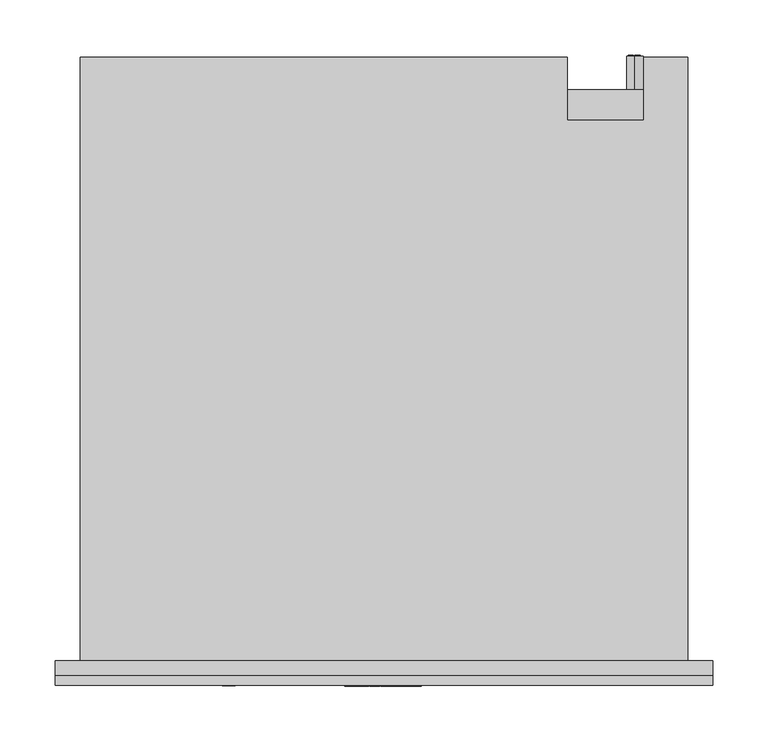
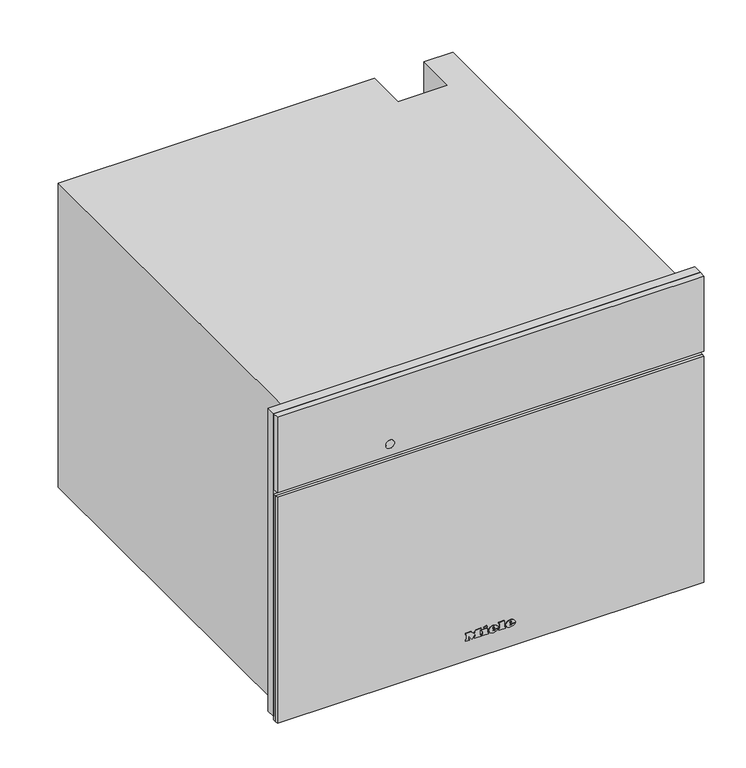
"""IFC4 building model written with IfcOpenShell, lengths in millimetres: proxy geometry, 12598910_CH_DGC7440HCXPro_PEBE : 23744098_CH_12598910_DGC7440HCXPro_PEBE."""

from ifc_helpers import new_model, si_unit, point, frame, frame_2d, origin, place, context, project, spatial, polyline, circle_curve, ellipse_curve, trimmed, segment, composite_curve, outline, extrude, faceted_brep, source, transform, mapped, element, save
from ifc_brep_helpers import plane_surface, cylinder_surface, revolved_surface, extruded_surface, advanced_brep


def specialty_equipment_88979899(model_context):
    return source(origin(), model_context, "Body", "SolidModel", [
        extrude(outline(polyline([(455.0, 297.5), (455.0, -297.5), (9.0, -297.5), (9.0, 297.5), (455.0, 297.5)]), holes=[polyline([(344.0, -272.5), (344.0, 272.5), (27.0, 272.5), (27.0, -272.5), (344.0, -272.5)])]), frame((0.0, -13.0, 0.0), z_axis=(0.0, 1.0, 0.0), x_axis=(0.0, 0.0, 1.0)), (0.0, 0.0, 1.0), 13.0),
        advanced_brep(
        [(227.0, 547.0, 255.5), (227.0, 547.0, 240.5), (221.4098301, 547.0, 243.0), (225.5, 547.0, 243.0), (225.5, 547.0, 253.0), (224.4955303, 547.0, 253.0), (224.4955303, 547.0, 244.0), (221.0315043, 547.0, 244.0), (221.0315043, 547.0, 243.4582978), (232.0, 547.0, 243.0), (232.0, 547.0, 253.0), (227.0, 547.0, 253.0), (227.0, 547.0, 252.0), (231.0, 547.0, 252.0), (231.0, 547.0, 248.5), (228.0, 547.0, 248.5), (228.0, 547.0, 247.5), (231.0, 547.0, 247.5), (231.0, 547.0, 244.0), (227.0, 547.0, 244.0), (227.0, 547.0, 243.0), (227.0, 517.0, 240.5), (227.0, 517.0, 255.5), (232.0, 548.0, 253.0), (232.0, 548.0, 243.0), (227.0, 548.0, 243.0), (227.0, 548.0, 244.0), (231.0, 548.0, 244.0), (231.0, 548.0, 247.5), (228.0, 548.0, 247.5), (228.0, 548.0, 248.5), (231.0, 548.0, 248.5), (231.0, 548.0, 252.0), (227.0, 548.0, 252.0), (227.0, 548.0, 253.0), (225.5, 548.0, 243.0), (221.0315043, 548.0, 243.0), (221.0315043, 548.0, 244.0), (224.4955303, 548.0, 244.0), (224.4955303, 548.0, 253.0), (225.5, 548.0, 253.0), (221.0315043, 547.0, 243.0)],
        [
            (0, 1, circle_curve(frame((227.0, 547.0, 248.0), z_axis=(0.0, 1.0, 0.0), x_axis=(0.0, 0.0, 1.0)), 7.5)),
            (1, 2, circle_curve(frame((227.0, 547.0, 248.0), z_axis=(0.0, 1.0, 0.0), x_axis=(0.0, 0.0, 1.0)), 7.5)),
            (2, 3),
            (3, 4),
            (4, 5),
            (5, 6),
            (6, 7),
            (7, 8),
            (8, 0, circle_curve(frame((227.0, 547.0, 248.0), z_axis=(0.0, 1.0, 0.0), x_axis=(0.0, 0.0, 1.0)), 7.5)),
            (9, 10),
            (10, 11),
            (11, 12),
            (12, 13),
            (13, 14),
            (14, 15),
            (15, 16),
            (16, 17),
            (17, 18),
            (18, 19),
            (19, 20),
            (20, 9),
            (21, 22, circle_curve(frame((227.0, 517.0, 248.0), z_axis=(0.0, -1.0, 0.0), x_axis=(0.0, 0.0, 1.0)), 7.5)),
            (22, 21, circle_curve(frame((227.0, 517.0, 248.0), z_axis=(0.0, -1.0, 0.0), x_axis=(0.0, 0.0, 1.0)), 7.5)),
            (0, 22),
            (21, 1),
            (8, 2, circle_curve(frame((227.0, 547.0, 248.0), z_axis=(0.0, -1.0, 0.0), x_axis=(0.0, 0.0, 1.0)), 7.5)),
            (23, 24),
            (24, 25),
            (25, 26),
            (26, 27),
            (27, 28),
            (28, 29),
            (29, 30),
            (30, 31),
            (31, 32),
            (32, 33),
            (33, 34),
            (34, 23),
            (35, 36),
            (36, 37),
            (37, 38),
            (38, 39),
            (39, 40),
            (40, 35),
            (8, 41),
            (41, 2),
            (23, 10),
            (9, 24),
            (20, 25),
            (19, 26),
            (18, 27),
            (17, 28),
            (16, 29),
            (15, 30),
            (14, 31),
            (13, 32),
            (12, 33),
            (11, 34),
            (35, 3),
            (41, 36),
            (7, 37),
            (6, 38),
            (5, 39),
            (4, 40),
        ],
        [
            plane_surface(frame((227.0, 547.0, 255.5), z_axis=(0.0, 1.0, 0.0), x_axis=(1.0, 0.0, 0.0))),
            plane_surface(frame((227.0, 517.0, 255.5), z_axis=(0.0, -1.0, 0.0), x_axis=(-1.0, 0.0, 0.0))),
            cylinder_surface(frame((227.0, 547.0, 248.0), z_axis=(0.0, -1.0, 0.0), x_axis=(0.0, 0.0, 1.0)), 7.5),
            plane_surface(frame((232.0, 548.0, 253.0), z_axis=(0.0, 1.0, 0.0), x_axis=(0.0, 0.0, -1.0))),
            plane_surface(frame((232.0, 547.0, 253.0), z_axis=(0.0, -1.0, 0.0), x_axis=(0.0, 0.0, 1.0))),
            plane_surface(frame((232.0, 548.0, 253.0), z_axis=(1.0, 0.0, 0.0), x_axis=(0.0, -1.0, 0.0))),
            plane_surface(frame((232.0, 548.0, 243.0), z_axis=(0.0, 0.0, -1.0), x_axis=(0.0, -1.0, 0.0))),
            plane_surface(frame((227.0, 548.0, 243.0), z_axis=(-1.0, 0.0, 0.0), x_axis=(0.0, -1.0, 0.0))),
            plane_surface(frame((227.0, 548.0, 244.0), z_axis=(0.0, 0.0, 1.0), x_axis=(0.0, -1.0, 0.0))),
            plane_surface(frame((231.0, 548.0, 244.0), z_axis=(-1.0, 0.0, 0.0), x_axis=(0.0, -1.0, 0.0))),
            plane_surface(frame((231.0, 548.0, 247.5), z_axis=(0.0, 0.0, -1.0), x_axis=(0.0, -1.0, 0.0))),
            plane_surface(frame((228.0, 548.0, 247.5), z_axis=(-1.0, 0.0, 0.0), x_axis=(0.0, -1.0, 0.0))),
            plane_surface(frame((228.0, 548.0, 248.5), z_axis=(0.0, 0.0, 1.0), x_axis=(0.0, -1.0, 0.0))),
            plane_surface(frame((231.0, 548.0, 248.5), z_axis=(-1.0, 0.0, 0.0), x_axis=(0.0, -1.0, 0.0))),
            plane_surface(frame((231.0, 548.0, 252.0), z_axis=(0.0, 0.0, -1.0), x_axis=(0.0, -1.0, 0.0))),
            plane_surface(frame((227.0, 548.0, 252.0), z_axis=(-1.0, 0.0, 0.0), x_axis=(0.0, -1.0, 0.0))),
            plane_surface(frame((227.0, 548.0, 253.0), z_axis=(0.0, 0.0, 1.0), x_axis=(0.0, -1.0, 0.0))),
            plane_surface(frame((225.5, 548.0, 243.0), z_axis=(0.0, 0.0, -1.0), x_axis=(0.0, -1.0, 0.0))),
            plane_surface(frame((221.0315043, 548.0, 243.0), z_axis=(-1.0, 0.0, 0.0), x_axis=(0.0, -1.0, 0.0))),
            plane_surface(frame((221.0315043, 548.0, 244.0), z_axis=(0.0, 0.0, 1.0), x_axis=(0.0, -1.0, 0.0))),
            plane_surface(frame((224.4955303, 548.0, 244.0), z_axis=(-1.0, 0.0, 0.0), x_axis=(0.0, -1.0, 0.0))),
            plane_surface(frame((224.4955303, 548.0, 253.0), z_axis=(0.0, 0.0, 1.0), x_axis=(0.0, -1.0, 0.0))),
            plane_surface(frame((225.5, 548.0, 253.0), z_axis=(1.0, 0.0, 0.0), x_axis=(0.0, -1.0, 0.0))),
        ],
        [
            (0, [[1, 2, 3, 4, 5, 6, 7, 8, 9], [10, 11, 12, 13, 14, 15, 16, 17, 18, 19, 20, 21]]),
            (1, [[22, 23]]),
            (2, [[-1, 24, -22, 25]]),
            (2, [[-23, -24, -9, 26, -2, -25]]),
            (3, [[27, 28, 29, 30, 31, 32, 33, 34, 35, 36, 37, 38]]),
            (3, [[39, 40, 41, 42, 43, 44]]),
            (4, [[45, 46, -26]]),
            (5, [[-27, 47, -10, 48]]),
            (6, [[-28, -48, -21, 49]]),
            (7, [[-29, -49, -20, 50]]),
            (8, [[-30, -50, -19, 51]]),
            (9, [[-31, -51, -18, 52]]),
            (10, [[-32, -52, -17, 53]]),
            (11, [[-33, -53, -16, 54]]),
            (12, [[-34, -54, -15, 55]]),
            (13, [[-35, -55, -14, 56]]),
            (14, [[-36, -56, -13, 57]]),
            (15, [[-37, -57, -12, 58]]),
            (16, [[-38, -58, -11, -47]]),
            (17, [[-39, 59, -3, -46, 60]]),
            (18, [[-40, -60, -45, -8, 61]]),
            (19, [[-41, -61, -7, 62]]),
            (20, [[-42, -62, -6, 63]]),
            (21, [[-43, -63, -5, 64]]),
            (22, [[-44, -64, -4, -59]]),
        ],
    ),
        faceted_brep([(-275.0, 546.0, 0.0), (-275.0, 546.0, 448.0), (166.0, 546.0, 448.0), (166.0, 546.0, 0.0), (235.0, 546.0, 448.0), (275.0, 546.0, 448.0), (275.0, 546.0, 338.0), (235.0, 546.0, 338.0), (275.0, 0.0, 448.0), (-275.0, 0.0, 448.0), (-275.0, 0.0, 0.0), (275.0, 0.0, 0.0), (-272.5, 0.0, 344.0), (272.5, 0.0, 344.0), (272.5, 0.0, 27.0), (-272.5, 0.0, 27.0), (235.0, 489.0, 448.0), (166.0, 489.0, 448.0), (166.0, 517.0, 0.0), (275.0, 517.0, 0.0), (275.0, 517.0, 338.0), (272.5, 17.0, 344.0), (-272.5, 17.0, 344.0), (-272.5, 17.0, 27.0), (272.5, 17.0, 27.0), (231.0, 17.0, 307.0), (231.0, 17.0, 65.0), (-231.0, 17.0, 65.0), (-231.0, 17.0, 307.0), (231.0, 411.0, 307.0), (-231.0, 411.0, 307.0), (-231.0, 411.0, 65.0), (231.0, 411.0, 65.0), (235.0, 489.0, 337.0), (166.0, 489.0, 337.0), (166.0, 517.0, 337.0), (235.0, 517.0, 337.0), (235.0, 517.0, 338.0)], [[[0, 1, 2, 3]], [[4, 5, 6, 7]], [[8, 9, 10, 11], [12, 13, 14, 15]], [[9, 8, 5, 4, 16, 17, 2, 1]], [[1, 0, 10, 9]], [[11, 10, 0, 3, 18, 19]], [[8, 11, 19, 20, 6, 5]], [[21, 22, 23, 24], [25, 26, 27, 28]], [[22, 21, 13, 12]], [[23, 22, 12, 15]], [[24, 23, 15, 14]], [[21, 24, 14, 13]], [[29, 30, 31, 32]], [[29, 32, 26, 25]], [[32, 31, 27, 26]], [[31, 30, 28, 27]], [[30, 29, 25, 28]], [[16, 33, 34, 17]], [[17, 34, 35, 18, 3, 2]], [[34, 33, 36, 35]], [[33, 16, 4, 7, 37, 36]], [[37, 20, 19, 18, 35, 36]], [[20, 37, 7, 6]]]),
        advanced_brep(
        [(26.2998, -23.0, 36.7018), (26.2998, -23.0, 37.8532), (33.9264, -23.0, 37.8532), (20.6568, -23.0, 37.8532), (23.7918, -23.0, 34.0), (33.7326, -23.0, 36.7018), (30.2898, -23.0, 36.7018), (27.5766, -23.0, 35.425), (26.2998, -23.0, 39.3124), (26.2998, -23.0, 40.555), (28.2492, -23.0, 40.555), (28.2492, -23.0, 39.3124), (26.2998, -22.0, 36.7018), (27.5766, -22.0, 35.425), (30.2898, -22.0, 36.7018), (33.7326, -22.0, 36.7018), (23.7918, -22.0, 34.0), (20.6568, -22.0, 37.8532), (33.9264, -22.0, 37.8532), (26.2998, -22.0, 37.8532), (26.2998, -22.0, 39.3124), (28.2492, -22.0, 39.3124), (28.2492, -22.0, 40.555), (26.2998, -22.0, 40.555)],
        [
            (0, 1),
            (1, 2),
            (2, 3, ellipse_curve(frame((27.2916, -23.0, 37.8532), z_axis=(0.0, -1.0, 0.0), x_axis=(-1.0, 0.0, 0.0)), 6.6348, 5.4834)),
            (3, 4, circle_curve(frame((25.0686622, -23.0, 38.2408), z_axis=(0.0, -1.0, 0.0), x_axis=(0.0, 0.0, -1.0)), 4.4288556)),
            (4, 5, circle_curve(frame((27.1587808, -23.0, 41.2504), z_axis=(0.0, -1.0, 0.0), x_axis=(0.0, 0.0, -1.0)), 7.9940516)),
            (5, 6),
            (6, 7, circle_curve(frame((28.1338588, -23.0, 37.762), z_axis=(0.0, 1.0, 0.0), x_axis=(0.0, 0.0, -1.0)), 2.4025208)),
            (7, 0, circle_curve(frame((27.5766, -23.0, 36.7018), z_axis=(0.0, 1.0, 0.0), x_axis=(0.0, 0.0, -1.0)), 1.2768)),
            (8, 9),
            (9, 10, circle_curve(frame((27.2745, -23.0, 40.555), z_axis=(0.0, 1.0, 0.0), x_axis=(0.0, 0.0, -1.0)), 0.9747)),
            (10, 11),
            (11, 8),
            (12, 13, circle_curve(frame((27.5766, -22.0, 36.7018), z_axis=(0.0, -1.0, 0.0), x_axis=(0.0, 0.0, -1.0)), 1.2768)),
            (13, 14, circle_curve(frame((28.1338588, -22.0, 37.762), z_axis=(0.0, -1.0, 0.0), x_axis=(0.0, 0.0, -1.0)), 2.4025208)),
            (14, 15),
            (15, 16, circle_curve(frame((27.1587808, -22.0, 41.2504), z_axis=(0.0, 1.0, 0.0), x_axis=(0.0, 0.0, -1.0)), 7.9940516)),
            (16, 17, circle_curve(frame((25.0686622, -22.0, 38.2408), z_axis=(0.0, 1.0, 0.0), x_axis=(0.0, 0.0, -1.0)), 4.4288556)),
            (17, 18, ellipse_curve(frame((27.2916, -22.0, 37.8532), z_axis=(0.0, 1.0, 0.0), x_axis=(-1.0, 0.0, 0.0)), 6.6348, 5.4834)),
            (18, 19),
            (19, 12),
            (20, 21),
            (21, 22),
            (22, 23, circle_curve(frame((27.2745, -22.0, 40.555), z_axis=(0.0, -1.0, 0.0), x_axis=(0.0, 0.0, -1.0)), 0.9747)),
            (23, 20),
            (0, 12),
            (19, 1),
            (18, 2),
            (5, 15),
            (14, 6),
            (17, 3),
            (13, 7),
            (16, 4),
            (8, 20),
            (23, 9),
            (22, 10),
            (21, 11),
        ],
        [
            plane_surface(frame((26.2998, -23.0, 37.8532), z_axis=(0.0, -1.0, 0.0), x_axis=(0.0, 0.0, 1.0))),
            plane_surface(frame((26.2998, -22.0, 37.8532), z_axis=(0.0, 1.0, 0.0), x_axis=(0.0, 0.0, -1.0))),
            plane_surface(frame((26.2998, -23.0, 36.7018), z_axis=(1.0, 0.0, 0.0), x_axis=(0.0, 1.0, 0.0))),
            plane_surface(frame((26.2998, -23.0, 37.8532), z_axis=(0.0, 0.0, -1.0), x_axis=(0.0, 1.0, 0.0))),
            plane_surface(frame((33.7326, -23.0, 36.7018), z_axis=(0.0, 0.0, 1.0), x_axis=(0.0, 1.0, 0.0))),
            extruded_surface(trimmed(ellipse_curve(frame((27.2916, -21.0, 37.8532), z_axis=(0.0, -1.0, 0.0), x_axis=(-1.0, 0.0, 0.0)), 6.6348, 5.4834), [point((33.9264, -21.0, 37.8532))], [point((20.6568, -21.0, 37.8532))], True, "CARTESIAN"), (0.0, -1.0, 0.0), 1.0),
            revolved_surface(polyline([(28.1338588, -22.0, 35.3594792), (28.1338588, -23.0, 35.3594792)]), (28.1338588, -22.0, 37.762), (0.0, 1.0, 0.0)),
            revolved_surface(polyline([(27.5766, -22.0, 35.425), (27.5766, -23.0, 35.425)]), (27.5766, -22.0, 36.7018), (0.0, 1.0, 0.0)),
            cylinder_surface(frame((25.0686622, -22.0, 38.2408), z_axis=(0.0, -1.0, 0.0), x_axis=(0.0, 0.0, -1.0)), 4.4288556),
            cylinder_surface(frame((27.1587808, -22.0, 41.2504), z_axis=(0.0, -1.0, 0.0), x_axis=(0.0, 0.0, -1.0)), 7.9940516),
            plane_surface(frame((26.2998, -23.0, 39.3124), z_axis=(1.0, 0.0, 0.0), x_axis=(0.0, 1.0, 0.0))),
            revolved_surface(polyline([(27.2745, -22.0, 39.5803), (27.2745, -23.0, 39.5803)]), (27.2745, -22.0, 40.555), (0.0, 1.0, 0.0)),
            plane_surface(frame((28.2492, -23.0, 40.555), z_axis=(-1.0, 0.0, 0.0), x_axis=(0.0, 1.0, 0.0))),
            plane_surface(frame((28.2492, -23.0, 39.3124), z_axis=(0.0, 0.0, 1.0), x_axis=(0.0, 1.0, 0.0))),
        ],
        [
            (0, [[1, 2, 3, 4, 5, 6, 7, 8], [9, 10, 11, 12]]),
            (1, [[13, 14, 15, 16, 17, 18, 19, 20], [21, 22, 23, 24]]),
            (2, [[-1, 25, -20, 26]]),
            (3, [[-2, -26, -19, 27]]),
            (4, [[-6, 28, -15, 29]]),
            (5, [[-3, -27, -18, 30]]),
            (6, [[-7, -29, -14, 31]]),
            (7, [[-8, -31, -13, -25]]),
            (8, [[-4, -30, -17, 32]]),
            (9, [[-5, -32, -16, -28]]),
            (10, [[-9, 33, -24, 34]]),
            (11, [[-10, -34, -23, 35]]),
            (12, [[-11, -35, -22, 36]]),
            (13, [[-12, -36, -21, -33]]),
        ],
    ),
        advanced_brep(
        [(2.508, -23.0, 36.7018), (2.508, -23.0, 37.8532), (10.1346, -23.0, 37.8532), (-3.135, -23.0, 37.8532), (0.0, -23.0, 34.0), (9.9408, -23.0, 36.7018), (6.498, -23.0, 36.7018), (3.7848, -23.0, 35.425), (2.508, -23.0, 39.3124), (2.508, -23.0, 40.555), (4.4574, -23.0, 40.555), (4.4574, -23.0, 39.3124), (2.508, -22.0, 36.7018), (3.7848, -22.0, 35.425), (6.498, -22.0, 36.7018), (9.9408, -22.0, 36.7018), (0.0, -22.0, 34.0), (-3.135, -22.0, 37.8532), (10.1346, -22.0, 37.8532), (2.508, -22.0, 37.8532), (2.508, -22.0, 39.3124), (4.4574, -22.0, 39.3124), (4.4574, -22.0, 40.555), (2.508, -22.0, 40.555)],
        [
            (0, 1),
            (1, 2),
            (2, 3, ellipse_curve(frame((3.4998, -23.0, 37.8532), z_axis=(0.0, -1.0, 0.0), x_axis=(-1.0, 0.0, 0.0)), 6.6348, 5.4834)),
            (3, 4, circle_curve(frame((1.2768622, -23.0, 38.2408), z_axis=(0.0, -1.0, 0.0), x_axis=(0.0, 0.0, -1.0)), 4.4288556)),
            (4, 5, circle_curve(frame((3.3669808, -23.0, 41.2504), z_axis=(0.0, -1.0, 0.0), x_axis=(0.0, 0.0, -1.0)), 7.9940516)),
            (5, 6),
            (6, 7, circle_curve(frame((4.3420588, -23.0, 37.762), z_axis=(0.0, 1.0, 0.0), x_axis=(0.0, 0.0, -1.0)), 2.4025208)),
            (7, 0, circle_curve(frame((3.7848, -23.0, 36.7018), z_axis=(0.0, 1.0, 0.0), x_axis=(0.0, 0.0, -1.0)), 1.2768)),
            (8, 9),
            (9, 10, circle_curve(frame((3.4827, -23.0, 40.555), z_axis=(0.0, 1.0, 0.0), x_axis=(0.0, 0.0, -1.0)), 0.9747)),
            (10, 11),
            (11, 8),
            (12, 13, circle_curve(frame((3.7848, -22.0, 36.7018), z_axis=(0.0, -1.0, 0.0), x_axis=(0.0, 0.0, -1.0)), 1.2768)),
            (13, 14, circle_curve(frame((4.3420588, -22.0, 37.762), z_axis=(0.0, -1.0, 0.0), x_axis=(0.0, 0.0, -1.0)), 2.4025208)),
            (14, 15),
            (15, 16, circle_curve(frame((3.3669808, -22.0, 41.2504), z_axis=(0.0, 1.0, 0.0), x_axis=(0.0, 0.0, -1.0)), 7.9940516)),
            (16, 17, circle_curve(frame((1.2768622, -22.0, 38.2408), z_axis=(0.0, 1.0, 0.0), x_axis=(0.0, 0.0, -1.0)), 4.4288556)),
            (17, 18, ellipse_curve(frame((3.4998, -22.0, 37.8532), z_axis=(0.0, 1.0, 0.0), x_axis=(-1.0, 0.0, 0.0)), 6.6348, 5.4834)),
            (18, 19),
            (19, 12),
            (20, 21),
            (21, 22),
            (22, 23, circle_curve(frame((3.4827, -22.0, 40.555), z_axis=(0.0, -1.0, 0.0), x_axis=(0.0, 0.0, -1.0)), 0.9747)),
            (23, 20),
            (0, 12),
            (19, 1),
            (18, 2),
            (5, 15),
            (14, 6),
            (17, 3),
            (13, 7),
            (16, 4),
            (8, 20),
            (23, 9),
            (22, 10),
            (21, 11),
        ],
        [
            plane_surface(frame((2.508, -23.0, 37.8532), z_axis=(0.0, -1.0, 0.0), x_axis=(0.0, 0.0, 1.0))),
            plane_surface(frame((2.508, -22.0, 37.8532), z_axis=(0.0, 1.0, 0.0), x_axis=(0.0, 0.0, -1.0))),
            plane_surface(frame((2.508, -23.0, 36.7018), z_axis=(1.0, 0.0, 0.0), x_axis=(0.0, 1.0, 0.0))),
            plane_surface(frame((2.508, -23.0, 37.8532), z_axis=(0.0, 0.0, -1.0), x_axis=(0.0, 1.0, 0.0))),
            plane_surface(frame((9.9408, -23.0, 36.7018), z_axis=(0.0, 0.0, 1.0), x_axis=(0.0, 1.0, 0.0))),
            extruded_surface(trimmed(ellipse_curve(frame((3.4998, -21.0, 37.8532), z_axis=(0.0, -1.0, 0.0), x_axis=(-1.0, 0.0, 0.0)), 6.6348, 5.4834), [point((10.1346, -21.0, 37.8532))], [point((-3.135, -21.0, 37.8532))], True, "CARTESIAN"), (0.0, -1.0, 0.0), 1.0),
            revolved_surface(polyline([(4.3420588, -22.0, 35.3594792), (4.3420588, -23.0, 35.3594792)]), (4.3420588, -22.0, 37.762), (0.0, 1.0, 0.0)),
            revolved_surface(polyline([(3.7848, -22.0, 35.425), (3.7848, -23.0, 35.425)]), (3.7848, -22.0, 36.7018), (0.0, 1.0, 0.0)),
            cylinder_surface(frame((1.2768622, -22.0, 38.2408), z_axis=(0.0, -1.0, 0.0), x_axis=(0.0, 0.0, -1.0)), 4.4288556),
            cylinder_surface(frame((3.3669808, -22.0, 41.2504), z_axis=(0.0, -1.0, 0.0), x_axis=(0.0, 0.0, -1.0)), 7.9940516),
            plane_surface(frame((2.508, -23.0, 39.3124), z_axis=(1.0, 0.0, 0.0), x_axis=(0.0, 1.0, 0.0))),
            revolved_surface(polyline([(3.4827, -22.0, 39.5803), (3.4827, -23.0, 39.5803)]), (3.4827, -22.0, 40.555), (0.0, 1.0, 0.0)),
            plane_surface(frame((4.4574, -23.0, 40.555), z_axis=(-1.0, 0.0, 0.0), x_axis=(0.0, 1.0, 0.0))),
            plane_surface(frame((4.4574, -23.0, 39.3124), z_axis=(0.0, 0.0, 1.0), x_axis=(0.0, 1.0, 0.0))),
        ],
        [
            (0, [[1, 2, 3, 4, 5, 6, 7, 8], [9, 10, 11, 12]]),
            (1, [[13, 14, 15, 16, 17, 18, 19, 20], [21, 22, 23, 24]]),
            (2, [[-1, 25, -20, 26]]),
            (3, [[-2, -26, -19, 27]]),
            (4, [[-6, 28, -15, 29]]),
            (5, [[-3, -27, -18, 30]]),
            (6, [[-7, -29, -14, 31]]),
            (7, [[-8, -31, -13, -25]]),
            (8, [[-4, -30, -17, 32]]),
            (9, [[-5, -32, -16, -28]]),
            (10, [[-9, 33, -24, 34]]),
            (11, [[-10, -34, -23, 35]]),
            (12, [[-11, -35, -22, 36]]),
            (13, [[-12, -36, -21, -33]]),
        ],
    ),
        extrude(outline(polyline([(44.7274, -9.9522), (42.8806, -9.0858), (44.6818, -5.2212), (46.5286, -6.0762), (44.7274, -9.9522)])), frame((0.0, -23.0, 0.0), z_axis=(0.0, 1.0, 0.0), x_axis=(0.0, 0.0, 1.0)), (0.0, 0.0, 1.0), 1.0),
        extrude(outline(polyline([(42.6298, -12.768), (40.5892, -12.768), (40.5892, -11.4114), (35.9152, -11.4114), (35.9152, -12.768), (34.0, -12.768), (34.0, -3.7734), (35.9152, -3.7734), (35.9152, -5.0958), (42.6298, -5.0958), (42.6298, -12.768)])), frame((0.0, -23.0, 0.0), z_axis=(0.0, 1.0, 0.0), x_axis=(0.0, 0.0, 1.0)), (0.0, 0.0, 1.0), 1.0),
        extrude(outline(polyline([(43.5418, 10.773), (43.5418, 12.141), (35.9152, 12.141), (35.9152, 10.773), (34.0, 10.773), (34.0, 20.0184), (35.9152, 20.0184), (35.9152, 18.6162), (45.4, 18.6162), (45.4, 10.773), (43.5418, 10.773)])), frame((0.0, -23.0, 0.0), z_axis=(0.0, 1.0, 0.0), x_axis=(0.0, 0.0, 1.0)), (0.0, 0.0, 1.0), 1.0),
        extrude(outline(polyline([(43.5418, -35.4882), (43.5418, -34.1088), (35.9152, -34.1088), (35.9152, -35.4882), (34.0, -35.4882), (34.0, -30.4722), (35.9152, -30.4722), (35.9152, -31.8402), (40.7429247, -31.8402), (34.0, -26.7444), (40.9402223, -21.6258), (35.9152, -21.6258), (35.9152, -23.028), (34.0, -23.028), (34.0, -13.9308), (35.9152, -13.9308), (35.9152, -15.3786), (43.5418, -15.3786), (43.5418, -13.9308), (45.4, -13.9308), (45.4, -20.8734), (41.125, -24.2022), (45.4, -27.5424), (45.4, -35.4882), (43.5418, -35.4882)])), frame((0.0, -23.0, 0.0), z_axis=(0.0, 1.0, 0.0), x_axis=(0.0, 0.0, 1.0)), (0.0, 0.0, 1.0), 1.0),
        extrude(outline(polyline([(297.5, -22.0), (-297.5, -22.0), (-297.5, -13.0), (297.5, -13.0), (297.5, -22.0)])), frame((0.0, 0.0, 344.0), z_axis=(0.0, 0.0, 1.0), x_axis=(1.0, 0.0, 0.0)), (0.0, 0.0, 1.0), 111.0),
        extrude(outline(composite_curve([segment(trimmed(circle_curve(frame_2d((361.0, -140.5745637)), 6.0), [point((361.0, -146.5745637))], [point((361.0, -134.5745637))], False, "CARTESIAN"), True, "CONTINUOUS"), segment(trimmed(circle_curve(frame_2d((361.0, -140.5745637)), 6.0), [point((361.0, -134.5745637))], [point((361.0, -146.5745637))], False, "CARTESIAN"), True, "CONTINUOUS")], self_intersect=False)), frame((0.0, -22.5, 0.0), z_axis=(0.0, 1.0, 0.0), x_axis=(0.0, 0.0, 1.0)), (0.0, 0.0, 1.0), 1.0),
        extrude(outline(polyline([(-297.5, -18.0), (297.5, -18.0), (297.5, -22.0), (-297.5, -22.0), (-297.5, -18.0)])), frame((0.0, 0.0, 4.0), z_axis=(0.0, 0.0, 1.0), x_axis=(1.0, 0.0, 0.0)), (0.0, 0.0, 1.0), 333.0),
        extrude(outline(polyline([(297.5, -18.0), (-297.5, -18.0), (-297.5, -13.0), (297.5, -13.0), (297.5, -18.0)])), frame((0.0, 0.0, 4.0), z_axis=(0.0, 0.0, 1.0), x_axis=(1.0, 0.0, 0.0)), (0.0, 0.0, 1.0), 333.0),
    ])


if __name__ == "__main__":
    model = new_model("IFC4")
    model_context = context("Model", 3, world=origin())
    ifc_project = project(units=[si_unit("LENGTHUNIT", "METRE", prefix="MILLI")], contexts=[model_context])
    site = spatial("IfcSite", under=ifc_project)
    building = spatial("IfcBuilding", under=site)
    placement = place(None, origin())
    specialty_equipment_shape = specialty_equipment_88979899(model_context)
    element("IfcBuildingElementProxy", 1, Name="12598910_CH_DGC7440HCXPro_PEBE : 23744098_CH_12598910_DGC7440HCXPro_PEBE", ObjectType="12598910_CH_DGC7440HCXPro_PEBE : 23744098_CH_12598910_DGC7440HCXPro_PEBE", at=placement, inside=building, context=model_context, shape_type="MappedRepresentation", body=[
        mapped(specialty_equipment_shape, transform((0.0, 0.0, 0.0), x_axis=(1.0, 0.0, 0.0), y_axis=(0.0, 1.0, 0.0), z_axis=(0.0, 0.0, 1.0))),
    ])
    save(model, "model.ifc")
